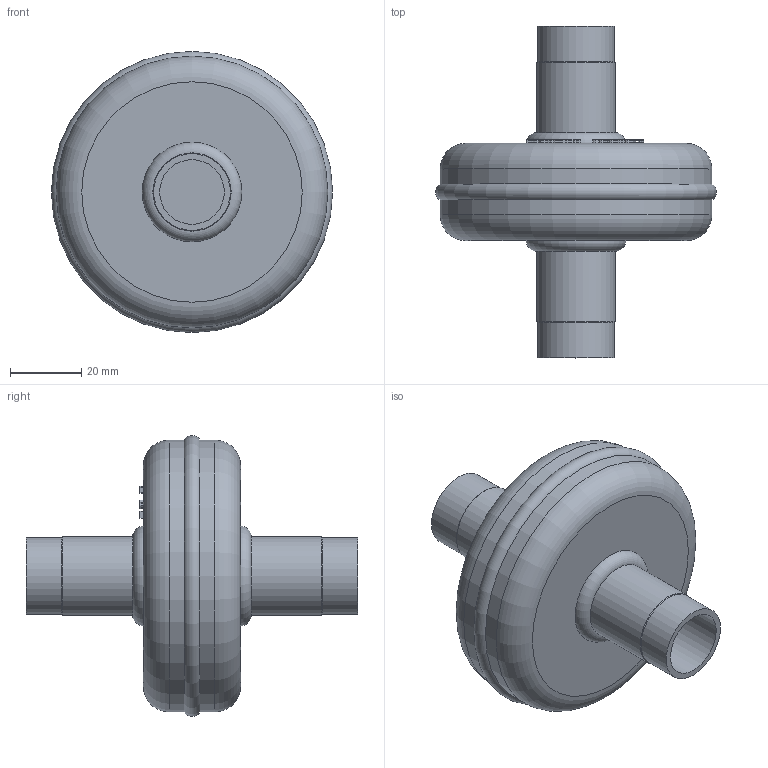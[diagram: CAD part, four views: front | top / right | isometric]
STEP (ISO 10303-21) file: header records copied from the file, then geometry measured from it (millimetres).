
FILE_DESCRIPTION(/* description */ (''),/* implementation_level */ '2;1');
FILE_NAME(/* name */ 'P:\F\F-18L\F-18L.stp',/* time_stamp */ '2017-10-05T08:18:08+02:00',/* author */ ('neufeld'),/* organization */ (''),/* preprocessor_version */ 'ST-DEVELOPER v16.1',/* originating_system */ 'Autodesk Inventor 2016',/* authorisation */ '');
FILE_SCHEMA (('AUTOMOTIVE_DESIGN { 1 0 10303 214 3 1 1 }'));
Length unit declared in the file: millimetre
Products named in the file (2): F-18L; F-18L_1
Assembly tree (1 placements, depth 2):
  F-18L_1
    F-18L
Bounding box: 79.03 x 93.31 x 79.03 mm (x, y, z)
Volume: 139200.2 mm3; surface area: 20888.6 mm2
Topology: 1 solids, 1 shells, 727 faces, 1995 edges, 1328 vertices
Faces by surface type: plane 508, bspline 204, cylinder 8, torus 5, cone 2
Full cylindrical faces by diameter (mm): 18.2 x2, 21.6 x2, 22 x2, 76.4 x2
Entity records: 24255 total; most frequent: CARTESIAN_POINT 7199, ORIENTED_EDGE 3952, DIRECTION 2640, EDGE_CURVE 1976, LINE 1548, VECTOR 1548, VERTEX_POINT 1324, EDGE_LOOP 800
